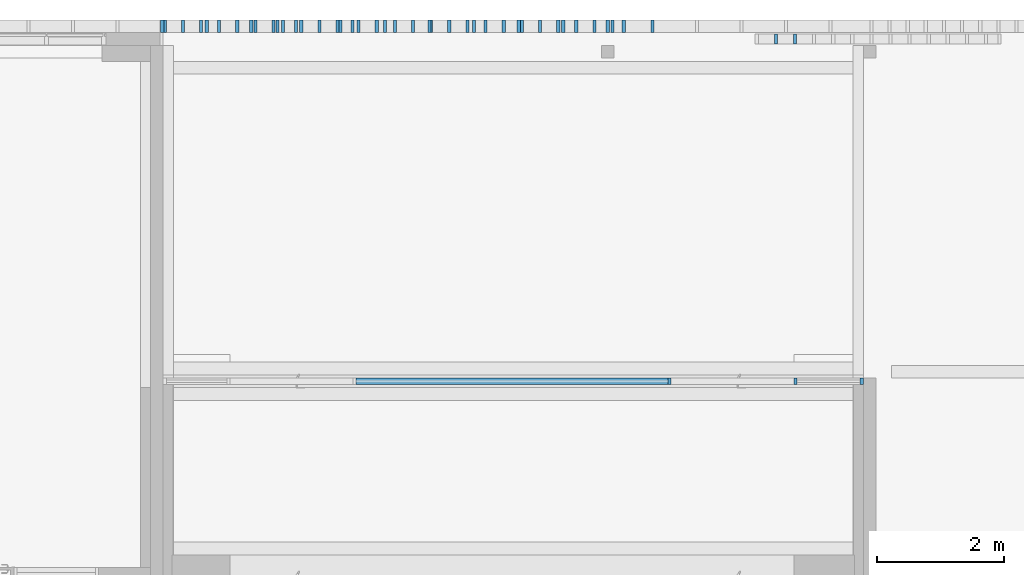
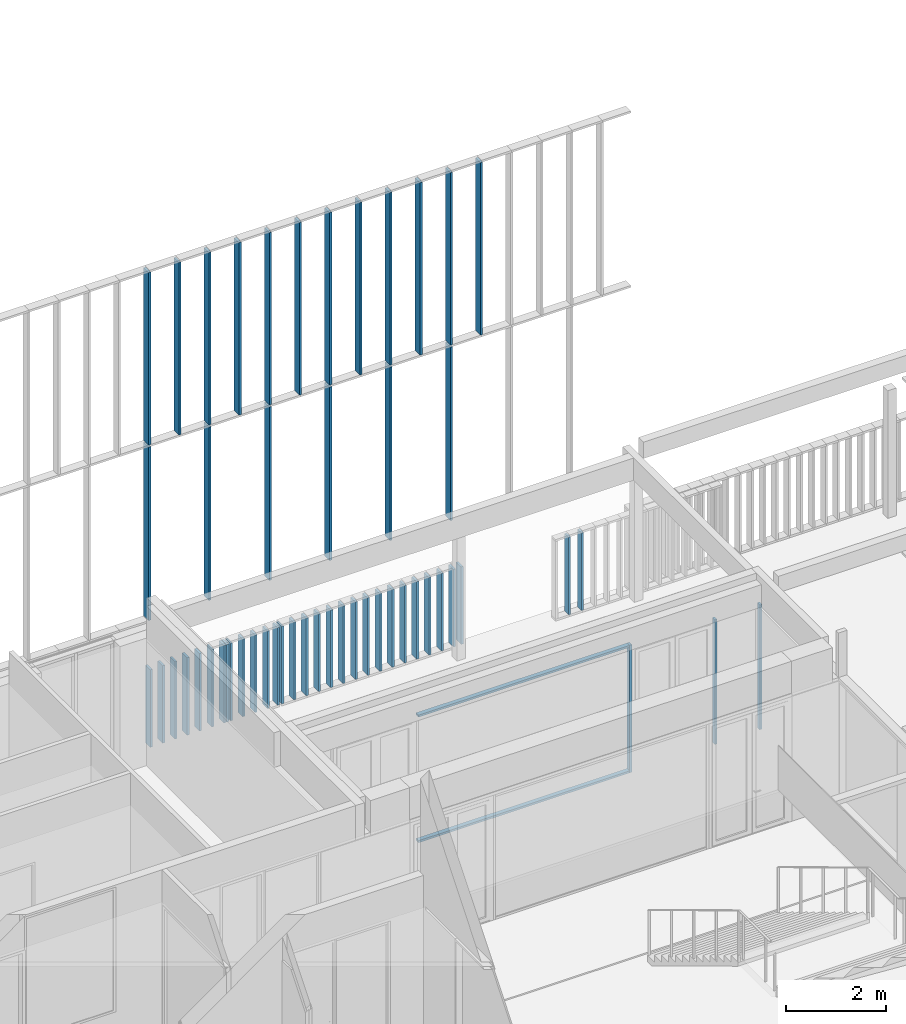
# One storey, part 23 of 240: 54 members, 7 elements without a shape of their own.
"""IFC2X3 building model written with IfcOpenShell, lengths in centimetres."""

from ifc_helpers import new_model, entity, si_unit, converted_unit, derived_unit, direction, frame, origin, origin_2d_with_axis, place, context, subcontext, project, spatial, rectangle, extrude, source, transform, mapped, material, type_object, type_shapes, element, aggregate, save


model = new_model("IFC2X3")

# Units and contexts
model_context = context("Model", 3, precision=0.001, world=origin(), true_north=direction((6.12303176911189e-17, 1.0)))
body_context = subcontext(model_context, "Body", "Model", "MODEL_VIEW")
ifc_project = project(units=[si_unit("LENGTHUNIT", "METRE", prefix="CENTI"), si_unit("AREAUNIT", "SQUARE_METRE"), si_unit("VOLUMEUNIT", "CUBIC_METRE"), converted_unit("PLANEANGLEUNIT", "DEGREE", entity("IfcRatioMeasure", 0.0174532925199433), si_unit("PLANEANGLEUNIT", "RADIAN"), dimensions=[0, 0, 0, 0, 0, 0, 0]), si_unit("MASSUNIT", "GRAM", prefix="KILO"), derived_unit("MASSDENSITYUNIT", [(si_unit("MASSUNIT", "GRAM", prefix="KILO"), 1), (si_unit("LENGTHUNIT", "METRE"), -3)]), si_unit("TIMEUNIT", "SECOND"), si_unit("FREQUENCYUNIT", "HERTZ"), si_unit("THERMODYNAMICTEMPERATUREUNIT", "DEGREE_CELSIUS"), derived_unit("THERMALTRANSMITTANCEUNIT", [(si_unit("MASSUNIT", "GRAM", prefix="KILO"), 1), (si_unit("THERMODYNAMICTEMPERATUREUNIT", "KELVIN"), -1), (si_unit("TIMEUNIT", "SECOND"), -3)]), derived_unit("VOLUMETRICFLOWRATEUNIT", [(si_unit("LENGTHUNIT", "METRE"), 3), (si_unit("TIMEUNIT", "SECOND"), -1)]), si_unit("ELECTRICCURRENTUNIT", "AMPERE"), si_unit("ELECTRICVOLTAGEUNIT", "VOLT"), si_unit("POWERUNIT", "WATT"), si_unit("FORCEUNIT", "NEWTON", prefix="KILO"), si_unit("ILLUMINANCEUNIT", "LUX"), si_unit("LUMINOUSFLUXUNIT", "LUMEN"), si_unit("LUMINOUSINTENSITYUNIT", "CANDELA"), derived_unit("USERDEFINED", [(si_unit("MASSUNIT", "GRAM", prefix="KILO"), -1), (si_unit("LENGTHUNIT", "METRE"), -2), (si_unit("TIMEUNIT", "SECOND"), 3), (si_unit("LUMINOUSFLUXUNIT", "LUMEN"), 1)]), derived_unit("LINEARVELOCITYUNIT", [(si_unit("LENGTHUNIT", "METRE"), 1), (si_unit("TIMEUNIT", "SECOND"), -1)]), si_unit("PRESSUREUNIT", "PASCAL"), derived_unit("USERDEFINED", [(si_unit("LENGTHUNIT", "METRE"), -2), (si_unit("MASSUNIT", "GRAM", prefix="KILO"), 1), (si_unit("TIMEUNIT", "SECOND"), -2)])], contexts=[model_context])

# Site, building, storey
site_placement = place(None, frame((-2781.94577612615, 7442.24238424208, 0.0)))
site = spatial("IfcSite", under=ifc_project, at=site_placement, Name="Default", CompositionType="ELEMENT")
building_placement = place(site_placement, origin())
building = spatial("IfcBuilding", under=site, at=building_placement, CompositionType="ELEMENT")
storey_placement = place(building_placement, origin())
storey = spatial("IfcBuildingStorey", under=building, at=storey_placement, Name="N00 - COO", CompositionType="ELEMENT", Elevation=0.0)

# Curtain wall, members
curtain_wall_type_1 = type_object("IfcCurtainWallType", Name="Mur-rideau:Epines - 200x50mm", PredefinedType="NOTDEFINED")
curtain_wall_1_placement = place(building_placement, origin())
curtain_wall_1 = element("IfcCurtainWall", 1, at=curtain_wall_1_placement, inside=storey, type_object=curtain_wall_type_1, Name="Mur-rideau:Epines - 200x50mm", ObjectType="Mur-rideau:Epines - 200x50mm")
ifc_material_1 = material(Name="Aluminium")
member_type_1 = type_object("IfcMemberType", Name="200x50 mm", PredefinedType="MEMBER")
shared_shape_1 = source(origin(), body_context, "Body", "SweptSolid", [
    extrude(rectangle(XDim=20.0, YDim=5.0, at=origin_2d_with_axis()), frame((0.0, 0.0, -423.0), z_axis=(0.0, 0.0, 1.0), x_axis=(0.0, -1.0, 0.0)), (0.0, 0.0, 1.0), 423.000000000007),
])
type_shapes(member_type_1, [shared_shape_1])
member_1_placement = place(building_placement, frame((-4769.49987760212, 40.0, 748.0), z_axis=(0.0, 0.0, -1.0), x_axis=(1.0, 0.0, 0.0)))
member_1 = element("IfcMember", 2, at=member_1_placement, type_object=member_type_1, material=ifc_material_1, Name="Meneau rectangulaire:200x50 mm", ObjectType="Meneau rectangulaire:200x50 mm", context=body_context, shape_type="MappedRepresentation", body=[
    mapped(shared_shape_1, transform((0.0, 0.0, 0.0), scale=1.0)),
])
member_2_placement = place(building_placement, frame((-4489.49987760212, 40.0, 748.0), z_axis=(0.0, 0.0, -1.0), x_axis=(1.0, 0.0, 0.0)))
member_2 = element("IfcMember", 3, at=member_2_placement, type_object=member_type_1, material=ifc_material_1, Name="Meneau rectangulaire:200x50 mm", ObjectType="Meneau rectangulaire:200x50 mm", context=body_context, shape_type="MappedRepresentation", body=[
    mapped(shared_shape_1, transform((0.0, 0.0, 0.0), scale=1.0)),
])
member_3_placement = place(building_placement, frame((-4209.49987760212, 40.0, 748.0), z_axis=(0.0, 0.0, -1.0), x_axis=(1.0, 0.0, 0.0)))
member_3 = element("IfcMember", 4, at=member_3_placement, type_object=member_type_1, material=ifc_material_1, Name="Meneau rectangulaire:200x50 mm", ObjectType="Meneau rectangulaire:200x50 mm", context=body_context, shape_type="MappedRepresentation", body=[
    mapped(shared_shape_1, transform((0.0, 0.0, 0.0), scale=1.0)),
])
member_4_placement = place(building_placement, frame((-4629.50004279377, 40.0, 748.0), z_axis=(0.0, 0.0, -1.0), x_axis=(1.0, 0.0, 0.0)))
member_4 = element("IfcMember", 5, at=member_4_placement, type_object=member_type_1, material=ifc_material_1, Name="Meneau rectangulaire:200x50 mm", ObjectType="Meneau rectangulaire:200x50 mm", context=body_context, shape_type="MappedRepresentation", body=[
    mapped(shared_shape_1, transform((0.0, 0.0, 0.0), scale=1.0)),
])
member_5_placement = place(building_placement, frame((-4349.49987760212, 40.0, 748.0), z_axis=(0.0, 0.0, -1.0), x_axis=(1.0, 0.0, 0.0)))
member_5 = element("IfcMember", 6, at=member_5_placement, type_object=member_type_1, material=ifc_material_1, Name="Meneau rectangulaire:200x50 mm", ObjectType="Meneau rectangulaire:200x50 mm", context=body_context, shape_type="MappedRepresentation", body=[
    mapped(shared_shape_1, transform((0.0, 0.0, 0.0), scale=1.0)),
])
member_6_placement = place(building_placement, frame((-4069.50004159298, 40.0, 748.0), z_axis=(0.0, 0.0, -1.0), x_axis=(1.0, 0.0, 0.0)))
member_6 = element("IfcMember", 7, at=member_6_placement, type_object=member_type_1, material=ifc_material_1, Name="Meneau rectangulaire:200x50 mm", ObjectType="Meneau rectangulaire:200x50 mm", context=body_context, shape_type="MappedRepresentation", body=[
    mapped(shared_shape_1, transform((0.0, 0.0, 0.0), scale=1.0)),
])
member_7_placement = place(building_placement, frame((-3999.49995959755, 40.0, 748.0), z_axis=(0.0, 0.0, -1.0), x_axis=(1.0, 0.0, 0.0)))
member_7 = element("IfcMember", 8, at=member_7_placement, type_object=member_type_1, material=ifc_material_1, Name="Meneau rectangulaire:200x50 mm", ObjectType="Meneau rectangulaire:200x50 mm", context=body_context, shape_type="MappedRepresentation", body=[
    mapped(shared_shape_1, transform((0.0, 0.0, 0.0), scale=1.0)),
])
member_8_placement = place(building_placement, frame((-4139.49995959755, 40.0, 748.0), z_axis=(0.0, 0.0, -1.0), x_axis=(1.0, 0.0, 0.0)))
member_8 = element("IfcMember", 9, at=member_8_placement, type_object=member_type_1, material=ifc_material_1, Name="Meneau rectangulaire:200x50 mm", ObjectType="Meneau rectangulaire:200x50 mm", context=body_context, shape_type="MappedRepresentation", body=[
    mapped(shared_shape_1, transform((0.0, 0.0, 0.0), scale=1.0)),
])
member_9_placement = place(building_placement, frame((-4279.49987760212, 40.0, 748.0), z_axis=(0.0, 0.0, -1.0), x_axis=(1.0, 0.0, 0.0)))
member_9 = element("IfcMember", 10, at=member_9_placement, type_object=member_type_1, material=ifc_material_1, Name="Meneau rectangulaire:200x50 mm", ObjectType="Meneau rectangulaire:200x50 mm", context=body_context, shape_type="MappedRepresentation", body=[
    mapped(shared_shape_1, transform((0.0, 0.0, 0.0), scale=1.0)),
])
member_10_placement = place(building_placement, frame((-4419.49987760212, 40.0, 748.0), z_axis=(0.0, 0.0, -1.0), x_axis=(1.0, 0.0, 0.0)))
member_10 = element("IfcMember", 11, at=member_10_placement, type_object=member_type_1, material=ifc_material_1, Name="Meneau rectangulaire:200x50 mm", ObjectType="Meneau rectangulaire:200x50 mm", context=body_context, shape_type="MappedRepresentation", body=[
    mapped(shared_shape_1, transform((0.0, 0.0, 0.0), scale=1.0)),
])
member_11_placement = place(building_placement, frame((-4559.49996019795, 40.0, 748.0), z_axis=(0.0, 0.0, -1.0), x_axis=(1.0, 0.0, 0.0)))
member_11 = element("IfcMember", 12, at=member_11_placement, type_object=member_type_1, material=ifc_material_1, Name="Meneau rectangulaire:200x50 mm", ObjectType="Meneau rectangulaire:200x50 mm", context=body_context, shape_type="MappedRepresentation", body=[
    mapped(shared_shape_1, transform((0.0, 0.0, 0.0), scale=1.0)),
])
member_12_placement = place(building_placement, frame((-4699.49996019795, 40.0, 748.0), z_axis=(0.0, 0.0, -1.0), x_axis=(1.0, 0.0, 0.0)))
member_12 = element("IfcMember", 13, at=member_12_placement, type_object=member_type_1, material=ifc_material_1, Name="Meneau rectangulaire:200x50 mm", ObjectType="Meneau rectangulaire:200x50 mm", context=body_context, shape_type="MappedRepresentation", body=[
    mapped(shared_shape_1, transform((0.0, 0.0, 0.0), scale=1.0)),
])
member_type_2 = type_object("IfcMemberType", Name="200x50 mm", PredefinedType="MEMBER")
shared_shape_2 = source(origin(), body_context, "Body", "SweptSolid", [
    extrude(rectangle(XDim=20.0, YDim=5.0, at=origin_2d_with_axis()), frame((0.0, 0.0, -425.5), z_axis=(0.0, 0.0, 1.0), x_axis=(0.0, -1.0, 0.0)), (0.0, 0.0, 1.0), 425.5),
])
type_shapes(member_type_2, [shared_shape_2])
member_13_placement = place(building_placement, frame((-4769.49987760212, 40.0, 317.5), z_axis=(0.0, 0.0, -1.0), x_axis=(1.0, 0.0, 0.0)))
member_13 = element("IfcMember", 14, at=member_13_placement, type_object=member_type_2, material=ifc_material_1, Name="Meneau rectangulaire:200x50 mm", ObjectType="Meneau rectangulaire:200x50 mm", context=body_context, shape_type="MappedRepresentation", body=[
    mapped(shared_shape_2, transform((0.0, 0.0, 0.0), scale=1.0)),
])
member_14_placement = place(building_placement, frame((-4069.50004159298, 40.0, 317.5), z_axis=(0.0, 0.0, -1.0), x_axis=(1.0, 0.0, 0.0)))
member_14 = element("IfcMember", 15, at=member_14_placement, type_object=member_type_2, material=ifc_material_1, Name="Meneau rectangulaire:200x50 mm", ObjectType="Meneau rectangulaire:200x50 mm", context=body_context, shape_type="MappedRepresentation", body=[
    mapped(shared_shape_2, transform((0.0, 0.0, 0.0), scale=1.0)),
])
member_15_placement = place(building_placement, frame((-4209.49987760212, 40.0, 317.5), z_axis=(0.0, 0.0, -1.0), x_axis=(1.0, 0.0, 0.0)))
member_15 = element("IfcMember", 16, at=member_15_placement, type_object=member_type_2, material=ifc_material_1, Name="Meneau rectangulaire:200x50 mm", ObjectType="Meneau rectangulaire:200x50 mm", context=body_context, shape_type="MappedRepresentation", body=[
    mapped(shared_shape_2, transform((0.0, 0.0, 0.0), scale=1.0)),
])
member_16_placement = place(building_placement, frame((-4349.49987760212, 40.0, 317.5), z_axis=(0.0, 0.0, -1.0), x_axis=(1.0, 0.0, 0.0)))
member_16 = element("IfcMember", 17, at=member_16_placement, type_object=member_type_2, material=ifc_material_1, Name="Meneau rectangulaire:200x50 mm", ObjectType="Meneau rectangulaire:200x50 mm", context=body_context, shape_type="MappedRepresentation", body=[
    mapped(shared_shape_2, transform((0.0, 0.0, 0.0), scale=1.0)),
])
member_17_placement = place(building_placement, frame((-4489.49987760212, 40.0, 317.5), z_axis=(0.0, 0.0, -1.0), x_axis=(1.0, 0.0, 0.0)))
member_17 = element("IfcMember", 18, at=member_17_placement, type_object=member_type_2, material=ifc_material_1, Name="Meneau rectangulaire:200x50 mm", ObjectType="Meneau rectangulaire:200x50 mm", context=body_context, shape_type="MappedRepresentation", body=[
    mapped(shared_shape_2, transform((0.0, 0.0, 0.0), scale=1.0)),
])
member_18_placement = place(building_placement, frame((-4629.50004279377, 40.0, 317.5), z_axis=(0.0, 0.0, -1.0), x_axis=(1.0, 0.0, 0.0)))
member_18 = element("IfcMember", 19, at=member_18_placement, type_object=member_type_2, material=ifc_material_1, Name="Meneau rectangulaire:200x50 mm", ObjectType="Meneau rectangulaire:200x50 mm", context=body_context, shape_type="MappedRepresentation", body=[
    mapped(shared_shape_2, transform((0.0, 0.0, 0.0), scale=1.0)),
])
aggregate(curtain_wall_1, [member_1, member_2, member_3, member_13, member_4, member_5, member_6, member_7, member_8, member_9, member_10, member_11, member_12, member_14, member_15, member_16, member_17, member_18])

curtain_wall_type_2 = type_object("IfcCurtainWallType", Name="Mur-SR", PredefinedType="NOTDEFINED")
curtain_wall_2_placement = place(building_placement, origin())
curtain_wall_2 = element("IfcCurtainWall", 20, at=curtain_wall_2_placement, inside=storey, type_object=curtain_wall_type_2, Name="Mur-rideau:SR-Clôture", ObjectType="Mur-rideau:SR-Clôture")
member_type_3 = type_object("IfcMemberType", Name="Epine nord (200x50 mm)", PredefinedType="MEMBER")
shared_shape_3 = source(origin(), body_context, "Body", "SweptSolid", [
    extrude(rectangle(XDim=20.0, YDim=5.0, at=origin_2d_with_axis()), frame((0.0, 0.0, -190.0), z_axis=(0.0, 0.0, 1.0), x_axis=(0.0, -1.0, 0.0)), (0.0, 0.0, 1.0), 190.0),
])
type_shapes(member_type_3, [shared_shape_3])
member_19_placement = place(building_placement, frame((-4432.49291430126, 40.0, 5.0), z_axis=(0.0, 0.0, -1.0), x_axis=(1.0, 0.0, 0.0)))
member_19 = element("IfcMember", 21, at=member_19_placement, type_object=member_type_3, material=ifc_material_1, Name="Meneau rectangulaire:Epine nord (200x50 mm)", ObjectType="Meneau rectangulaire:Epine nord (200x50 mm)", context=body_context, shape_type="MappedRepresentation", body=[
    mapped(shared_shape_3, transform((0.0, 0.0, 0.0), scale=1.0)),
])
member_20_placement = place(building_placement, frame((-4403.99291430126, 40.0, 5.0), z_axis=(0.0, 0.0, -1.0), x_axis=(1.0, 0.0, 0.0)))
member_20 = element("IfcMember", 22, at=member_20_placement, type_object=member_type_3, material=ifc_material_1, Name="Meneau rectangulaire:Epine nord (200x50 mm)", ObjectType="Meneau rectangulaire:Epine nord (200x50 mm)", context=body_context, shape_type="MappedRepresentation", body=[
    mapped(shared_shape_3, transform((0.0, 0.0, 0.0), scale=1.0)),
])
member_21_placement = place(building_placement, frame((-4375.49291430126, 40.0, 5.0), z_axis=(0.0, 0.0, -1.0), x_axis=(1.0, 0.0, 0.0)))
member_21 = element("IfcMember", 23, at=member_21_placement, type_object=member_type_3, material=ifc_material_1, Name="Meneau rectangulaire:Epine nord (200x50 mm)", ObjectType="Meneau rectangulaire:Epine nord (200x50 mm)", context=body_context, shape_type="MappedRepresentation", body=[
    mapped(shared_shape_3, transform((0.0, 0.0, 0.0), scale=1.0)),
])
member_22_placement = place(building_placement, frame((-4346.99291430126, 40.0, 5.0), z_axis=(0.0, 0.0, -1.0), x_axis=(1.0, 0.0, 0.0)))
member_22 = element("IfcMember", 24, at=member_22_placement, type_object=member_type_3, material=ifc_material_1, Name="Meneau rectangulaire:Epine nord (200x50 mm)", ObjectType="Meneau rectangulaire:Epine nord (200x50 mm)", context=body_context, shape_type="MappedRepresentation", body=[
    mapped(shared_shape_3, transform((0.0, 0.0, 0.0), scale=1.0)),
])
member_23_placement = place(building_placement, frame((-4318.49291430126, 40.0, 5.0), z_axis=(0.0, 0.0, -1.0), x_axis=(1.0, 0.0, 0.0)))
member_23 = element("IfcMember", 25, at=member_23_placement, type_object=member_type_3, material=ifc_material_1, Name="Meneau rectangulaire:Epine nord (200x50 mm)", ObjectType="Meneau rectangulaire:Epine nord (200x50 mm)", context=body_context, shape_type="MappedRepresentation", body=[
    mapped(shared_shape_3, transform((0.0, 0.0, 0.0), scale=1.0)),
])
member_24_placement = place(building_placement, frame((-4289.99291430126, 40.0, 5.0), z_axis=(0.0, 0.0, -1.0), x_axis=(1.0, 0.0, 0.0)))
member_24 = element("IfcMember", 26, at=member_24_placement, type_object=member_type_3, material=ifc_material_1, Name="Meneau rectangulaire:Epine nord (200x50 mm)", ObjectType="Meneau rectangulaire:Epine nord (200x50 mm)", context=body_context, shape_type="MappedRepresentation", body=[
    mapped(shared_shape_3, transform((0.0, 0.0, 0.0), scale=1.0)),
])
member_25_placement = place(building_placement, frame((-4261.49291430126, 40.0, 5.0), z_axis=(0.0, 0.0, -1.0), x_axis=(1.0, 0.0, 0.0)))
member_25 = element("IfcMember", 27, at=member_25_placement, type_object=member_type_3, material=ifc_material_1, Name="Meneau rectangulaire:Epine nord (200x50 mm)", ObjectType="Meneau rectangulaire:Epine nord (200x50 mm)", context=body_context, shape_type="MappedRepresentation", body=[
    mapped(shared_shape_3, transform((0.0, 0.0, 0.0), scale=1.0)),
])
member_26_placement = place(building_placement, frame((-4232.99291430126, 40.0, 5.0), z_axis=(0.0, 0.0, -1.0), x_axis=(1.0, 0.0, 0.0)))
member_26 = element("IfcMember", 28, at=member_26_placement, type_object=member_type_3, material=ifc_material_1, Name="Meneau rectangulaire:Epine nord (200x50 mm)", ObjectType="Meneau rectangulaire:Epine nord (200x50 mm)", context=body_context, shape_type="MappedRepresentation", body=[
    mapped(shared_shape_3, transform((0.0, 0.0, 0.0), scale=1.0)),
])
member_27_placement = place(building_placement, frame((-4204.49291430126, 40.0, 5.0), z_axis=(0.0, 0.0, -1.0), x_axis=(1.0, 0.0, 0.0)))
member_27 = element("IfcMember", 29, at=member_27_placement, type_object=member_type_3, material=ifc_material_1, Name="Meneau rectangulaire:Epine nord (200x50 mm)", ObjectType="Meneau rectangulaire:Epine nord (200x50 mm)", context=body_context, shape_type="MappedRepresentation", body=[
    mapped(shared_shape_3, transform((0.0, 0.0, 0.0), scale=1.0)),
])
member_28_placement = place(building_placement, frame((-4175.99291430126, 40.0, 5.0), z_axis=(0.0, 0.0, -1.0), x_axis=(1.0, 0.0, 0.0)))
member_28 = element("IfcMember", 30, at=member_28_placement, type_object=member_type_3, material=ifc_material_1, Name="Meneau rectangulaire:Epine nord (200x50 mm)", ObjectType="Meneau rectangulaire:Epine nord (200x50 mm)", context=body_context, shape_type="MappedRepresentation", body=[
    mapped(shared_shape_3, transform((0.0, 0.0, 0.0), scale=1.0)),
])
member_29_placement = place(building_placement, frame((-4147.49291430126, 40.0, 5.0), z_axis=(0.0, 0.0, -1.0), x_axis=(1.0, 0.0, 0.0)))
member_29 = element("IfcMember", 31, at=member_29_placement, type_object=member_type_3, material=ifc_material_1, Name="Meneau rectangulaire:Epine nord (200x50 mm)", ObjectType="Meneau rectangulaire:Epine nord (200x50 mm)", context=body_context, shape_type="MappedRepresentation", body=[
    mapped(shared_shape_3, transform((0.0, 0.0, 0.0), scale=1.0)),
])
member_30_placement = place(building_placement, frame((-4118.99291430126, 40.0, 5.0), z_axis=(0.0, 0.0, -1.0), x_axis=(1.0, 0.0, 0.0)))
member_30 = element("IfcMember", 32, at=member_30_placement, type_object=member_type_3, material=ifc_material_1, Name="Meneau rectangulaire:Epine nord (200x50 mm)", ObjectType="Meneau rectangulaire:Epine nord (200x50 mm)", context=body_context, shape_type="MappedRepresentation", body=[
    mapped(shared_shape_3, transform((0.0, 0.0, 0.0), scale=1.0)),
])
member_31_placement = place(building_placement, frame((-4090.49291430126, 40.0, 5.0), z_axis=(0.0, 0.0, -1.0), x_axis=(1.0, 0.0, 0.0)))
member_31 = element("IfcMember", 33, at=member_31_placement, type_object=member_type_3, material=ifc_material_1, Name="Meneau rectangulaire:Epine nord (200x50 mm)", ObjectType="Meneau rectangulaire:Epine nord (200x50 mm)", context=body_context, shape_type="MappedRepresentation", body=[
    mapped(shared_shape_3, transform((0.0, 0.0, 0.0), scale=1.0)),
])
member_32_placement = place(building_placement, frame((-4061.99291430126, 40.0, 5.0), z_axis=(0.0, 0.0, -1.0), x_axis=(1.0, 0.0, 0.0)))
member_32 = element("IfcMember", 34, at=member_32_placement, type_object=member_type_3, material=ifc_material_1, Name="Meneau rectangulaire:Epine nord (200x50 mm)", ObjectType="Meneau rectangulaire:Epine nord (200x50 mm)", context=body_context, shape_type="MappedRepresentation", body=[
    mapped(shared_shape_3, transform((0.0, 0.0, 0.0), scale=1.0)),
])

curtain_wall_3_placement = place(building_placement, origin())
curtain_wall_3 = element("IfcCurtainWall", 35, at=curtain_wall_3_placement, inside=storey, type_object=curtain_wall_type_2, Name="Mur-rideau:SR-Clôture", ObjectType="Mur-rideau:SR-Clôture")
member_33_placement = place(building_placement, frame((-4736.99987757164, 40.0, 5.0), z_axis=(0.0, 0.0, -1.0), x_axis=(1.0, 0.0, 0.0)))
member_33 = element("IfcMember", 36, at=member_33_placement, type_object=member_type_3, material=ifc_material_1, Name="Meneau rectangulaire:Epine nord (200x50 mm)", ObjectType="Meneau rectangulaire:Epine nord (200x50 mm)", context=body_context, shape_type="MappedRepresentation", body=[
    mapped(shared_shape_3, transform((0.0, 0.0, 0.0), scale=1.0)),
])
member_34_placement = place(building_placement, frame((-4708.49987757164, 40.0, 5.0), z_axis=(0.0, 0.0, -1.0), x_axis=(1.0, 0.0, 0.0)))
member_34 = element("IfcMember", 37, at=member_34_placement, type_object=member_type_3, material=ifc_material_1, Name="Meneau rectangulaire:Epine nord (200x50 mm)", ObjectType="Meneau rectangulaire:Epine nord (200x50 mm)", context=body_context, shape_type="MappedRepresentation", body=[
    mapped(shared_shape_3, transform((0.0, 0.0, 0.0), scale=1.0)),
])
member_35_placement = place(building_placement, frame((-4679.99987757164, 40.0, 5.0), z_axis=(0.0, 0.0, -1.0), x_axis=(1.0, 0.0, 0.0)))
member_35 = element("IfcMember", 38, at=member_35_placement, type_object=member_type_3, material=ifc_material_1, Name="Meneau rectangulaire:Epine nord (200x50 mm)", ObjectType="Meneau rectangulaire:Epine nord (200x50 mm)", context=body_context, shape_type="MappedRepresentation", body=[
    mapped(shared_shape_3, transform((0.0, 0.0, 0.0), scale=1.0)),
])
member_36_placement = place(building_placement, frame((-4651.49987757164, 40.0, 5.0), z_axis=(0.0, 0.0, -1.0), x_axis=(1.0, 0.0, 0.0)))
member_36 = element("IfcMember", 39, at=member_36_placement, type_object=member_type_3, material=ifc_material_1, Name="Meneau rectangulaire:Epine nord (200x50 mm)", ObjectType="Meneau rectangulaire:Epine nord (200x50 mm)", context=body_context, shape_type="MappedRepresentation", body=[
    mapped(shared_shape_3, transform((0.0, 0.0, 0.0), scale=1.0)),
])
member_37_placement = place(building_placement, frame((-4622.99987757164, 40.0, 5.0), z_axis=(0.0, 0.0, -1.0), x_axis=(1.0, 0.0, 0.0)))
member_37 = element("IfcMember", 40, at=member_37_placement, type_object=member_type_3, material=ifc_material_1, Name="Meneau rectangulaire:Epine nord (200x50 mm)", ObjectType="Meneau rectangulaire:Epine nord (200x50 mm)", context=body_context, shape_type="MappedRepresentation", body=[
    mapped(shared_shape_3, transform((0.0, 0.0, 0.0), scale=1.0)),
])
member_38_placement = place(building_placement, frame((-4594.49987757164, 40.0, 5.0), z_axis=(0.0, 0.0, -1.0), x_axis=(1.0, 0.0, 0.0)))
member_38 = element("IfcMember", 41, at=member_38_placement, type_object=member_type_3, material=ifc_material_1, Name="Meneau rectangulaire:Epine nord (200x50 mm)", ObjectType="Meneau rectangulaire:Epine nord (200x50 mm)", context=body_context, shape_type="MappedRepresentation", body=[
    mapped(shared_shape_3, transform((0.0, 0.0, 0.0), scale=1.0)),
])

curtain_wall_4_placement = place(storey_placement, origin())
curtain_wall_4 = element("IfcCurtainWall", 42, at=curtain_wall_4_placement, inside=storey, type_object=curtain_wall_type_2, Name="Mur-SR", ObjectType="Mur-SR")
member_39_placement = place(storey_placement, frame((-4550.99291430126, 40.0, 5.0), z_axis=(0.0, 0.0, -1.0), x_axis=(1.0, 0.0, 0.0)))
member_39 = element("IfcMember", 43, at=member_39_placement, type_object=member_type_3, material=ifc_material_1, Name="Meneau rectangulaire:Epine nord (200x50 mm)", ObjectType="Meneau rectangulaire:Epine nord (200x50 mm)", context=body_context, shape_type="MappedRepresentation", body=[
    mapped(shared_shape_3, transform((0.0, 0.0, 0.0), scale=1.0)),
])
member_40_placement = place(storey_placement, frame((-4522.49291430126, 40.0, 5.0), z_axis=(0.0, 0.0, -1.0), x_axis=(1.0, 0.0, 0.0)))
member_40 = element("IfcMember", 44, at=member_40_placement, type_object=member_type_3, material=ifc_material_1, Name="Meneau rectangulaire:Epine nord (200x50 mm)", ObjectType="Meneau rectangulaire:Epine nord (200x50 mm)", context=body_context, shape_type="MappedRepresentation", body=[
    mapped(shared_shape_3, transform((0.0, 0.0, 0.0), scale=1.0)),
])
member_41_placement = place(storey_placement, frame((-4493.99291430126, 40.0, 5.0), z_axis=(0.0, 0.0, -1.0), x_axis=(1.0, 0.0, 0.0)))
member_41 = element("IfcMember", 45, at=member_41_placement, type_object=member_type_3, material=ifc_material_1, Name="Meneau rectangulaire:Epine nord (200x50 mm)", ObjectType="Meneau rectangulaire:Epine nord (200x50 mm)", context=body_context, shape_type="MappedRepresentation", body=[
    mapped(shared_shape_3, transform((0.0, 0.0, 0.0), scale=1.0)),
])

# Member
member_type_4 = type_object("IfcMemberType", Name="Epine nord (200x50 mm)", PredefinedType="MEMBER")
shared_shape_4 = source(origin(), body_context, "Body", "SweptSolid", [
    extrude(rectangle(XDim=20.0, YDim=5.0, at=origin_2d_with_axis()), frame((-2.5, 0.0, -190.0), z_axis=(0.0, 0.0, 1.0), x_axis=(0.0, -1.0, 0.0)), (0.0, 0.0, 1.0), 190.0),
])
type_shapes(member_type_4, [shared_shape_4])
member_42_placement = place(building_placement, frame((-4463.49291433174, 40.0, 195.0), z_axis=(0.0, 0.0, 1.0), x_axis=(-1.0, 0.0, 0.0)))
member_42 = element("IfcMember", 46, at=member_42_placement, type_object=member_type_4, material=ifc_material_1, Name="Meneau rectangulaire:Epine nord (200x50 mm)", ObjectType="Meneau rectangulaire:Epine nord (200x50 mm)", context=body_context, shape_type="MappedRepresentation", body=[
    mapped(shared_shape_4, transform((0.0, 0.0, 0.0), scale=1.0)),
])

member_43_placement = place(building_placement, frame((-4767.99987760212, 40.0, 195.0), z_axis=(0.0, 0.0, 1.0), x_axis=(-1.0, 0.0, 0.0)))
member_43 = element("IfcMember", 47, at=member_43_placement, type_object=member_type_4, material=ifc_material_1, Name="Meneau rectangulaire:Epine nord (200x50 mm)", ObjectType="Meneau rectangulaire:Epine nord (200x50 mm)", context=body_context, shape_type="MappedRepresentation", body=[
    mapped(shared_shape_4, transform((0.0, 0.0, 0.0), scale=1.0)),
])

member_44_placement = place(storey_placement, frame((-4581.99291433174, 40.0, 195.0), z_axis=(0.0, 0.0, 1.0), x_axis=(-1.0, 0.0, 0.0)))
member_44 = element("IfcMember", 48, at=member_44_placement, type_object=member_type_4, material=ifc_material_1, Name="Meneau rectangulaire:Epine nord (200x50 mm)", ObjectType="Meneau rectangulaire:Epine nord (200x50 mm)", context=body_context, shape_type="MappedRepresentation", body=[
    mapped(shared_shape_4, transform((0.0, 0.0, 0.0), scale=1.0)),
])

member_type_5 = type_object("IfcMemberType", Name="Epine nord (200x50 mm)", PredefinedType="MEMBER")
shared_shape_5 = source(origin(), body_context, "Body", "SweptSolid", [
    extrude(rectangle(XDim=20.0, YDim=5.0, at=origin_2d_with_axis()), frame((-2.5, 0.0, -190.0), z_axis=(0.0, 0.0, 1.0), x_axis=(0.0, -1.0, 0.0)), (0.0, 0.0, 1.0), 190.0),
])
type_shapes(member_type_5, [shared_shape_5])
member_45_placement = place(building_placement, frame((-4041.99291433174, 40.0, 5.0), z_axis=(0.0, 0.0, -1.0), x_axis=(1.0, 0.0, 0.0)))
member_45 = element("IfcMember", 49, at=member_45_placement, type_object=member_type_5, material=ifc_material_1, Name="Meneau rectangulaire:Epine nord (200x50 mm)", ObjectType="Meneau rectangulaire:Epine nord (200x50 mm)", context=body_context, shape_type="MappedRepresentation", body=[
    mapped(shared_shape_5, transform((0.0, 0.0, 0.0), scale=1.0)),
])

aggregate(curtain_wall_2, [member_19, member_20, member_21, member_22, member_23, member_24, member_25, member_26, member_27, member_28, member_29, member_30, member_31, member_45, member_42, member_32])

member_46_placement = place(building_placement, frame((-4585.99987760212, 40.0, 5.0), z_axis=(0.0, 0.0, -1.0), x_axis=(1.0, 0.0, 0.0)))
member_46 = element("IfcMember", 50, at=member_46_placement, type_object=member_type_5, material=ifc_material_1, Name="Meneau rectangulaire:Epine nord (200x50 mm)", ObjectType="Meneau rectangulaire:Epine nord (200x50 mm)", context=body_context, shape_type="MappedRepresentation", body=[
    mapped(shared_shape_5, transform((0.0, 0.0, 0.0), scale=1.0)),
])

aggregate(curtain_wall_3, [member_33, member_34, member_35, member_46, member_43, member_36, member_37, member_38])

member_47_placement = place(storey_placement, frame((-4467.99291433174, 40.0, 5.0), z_axis=(0.0, 0.0, -1.0), x_axis=(1.0, 0.0, 0.0)))
member_47 = element("IfcMember", 51, at=member_47_placement, type_object=member_type_5, material=ifc_material_1, Name="Meneau rectangulaire:Epine nord (200x50 mm)", ObjectType="Meneau rectangulaire:Epine nord (200x50 mm)", context=body_context, shape_type="MappedRepresentation", body=[
    mapped(shared_shape_5, transform((0.0, 0.0, 0.0), scale=1.0)),
])

aggregate(curtain_wall_4, [member_39, member_40, member_41, member_47, member_44])

# Curtain wall, members
curtain_wall_type_3 = type_object("IfcCurtainWallType", Name="Mur-rideau:07 - mur rideau vitrage sans recoupement 10cm", PredefinedType="NOTDEFINED")
curtain_wall_5_placement = place(building_placement, origin())
curtain_wall_5 = element("IfcCurtainWall", 52, at=curtain_wall_5_placement, inside=storey, type_object=curtain_wall_type_3, Name="Mur-rideau:07 - mur rideau vitrage sans recoupement 10cm", ObjectType="Mur-rideau:07 - mur rideau vitrage sans recoupement 10cm")
ifc_material_2 = material(Name="Plastique, blanc opaque")
member_type_6 = type_object("IfcMemberType", Name="100 x 50mm", PredefinedType="MEMBER")
shared_shape_6 = source(origin(), body_context, "Body", "SweptSolid", [
    extrude(rectangle(XDim=10.0, YDim=5.0, at=origin_2d_with_axis()), frame((-2.5, 0.0, -306.0), z_axis=(0.0, 0.0, 1.0), x_axis=(0.0, -1.0, 0.0)), (0.0, 0.0, 1.0), 306.0),
])
type_shapes(member_type_6, [shared_shape_6])
member_48_placement = place(building_placement, frame((-3667.99987968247, -517.548500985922, 0.0), z_axis=(0.0, 0.0, -1.0), x_axis=(1.0, 0.0, 0.0)))
member_48 = element("IfcMember", 53, at=member_48_placement, type_object=member_type_6, material=ifc_material_2, Name="Meneau rectangulaire:100 x 50mm", ObjectType="Meneau rectangulaire:100 x 50mm", context=body_context, shape_type="MappedRepresentation", body=[
    mapped(shared_shape_6, transform((0.0, 0.0, 0.0), scale=1.0)),
])
member_type_7 = type_object("IfcMemberType", Name="100 x 50mm", PredefinedType="MEMBER")
shared_shape_7 = source(origin(), body_context, "Body", "SweptSolid", [
    extrude(rectangle(XDim=10.0, YDim=5.0, at=origin_2d_with_axis()), frame((-2.5, 0.0, -306.0), z_axis=(0.0, 0.0, 1.0), x_axis=(0.0, -1.0, 0.0)), (0.0, 0.0, 1.0), 306.0),
])
type_shapes(member_type_7, [shared_shape_7])
member_49_placement = place(building_placement, frame((-3777.24283441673, -517.548500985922, 306.0), z_axis=(0.0, 0.0, 1.0), x_axis=(-1.0, 0.0, 0.0)))
member_49 = element("IfcMember", 54, at=member_49_placement, type_object=member_type_7, material=ifc_material_2, Name="Meneau rectangulaire:100 x 50mm", ObjectType="Meneau rectangulaire:100 x 50mm", context=body_context, shape_type="MappedRepresentation", body=[
    mapped(shared_shape_7, transform((0.0, 0.0, 0.0), scale=1.0)),
])
aggregate(curtain_wall_5, [member_48, member_49])

curtain_wall_6_placement = place(building_placement, origin())
curtain_wall_6 = element("IfcCurtainWall", 55, at=curtain_wall_6_placement, inside=storey, type_object=curtain_wall_type_3, Name="Mur-rideau:07 - mur rideau vitrage sans recoupement 10cm", ObjectType="Mur-rideau:07 - mur rideau vitrage sans recoupement 10cm")
member_type_8 = type_object("IfcMemberType", Name="100 x 50mm", PredefinedType="MEMBER")
shared_shape_8 = source(origin(), body_context, "Body", "SweptSolid", [
    extrude(rectangle(XDim=10.0, YDim=5.0, at=origin_2d_with_axis()), frame((-2.5, 0.0, -490.0), z_axis=(0.0, 0.0, 1.0), x_axis=(0.0, -1.0, 0.0)), (0.0, 0.0, 1.0), 490.0),
])
type_shapes(member_type_8, [shared_shape_8])
member_50_placement = place(building_placement, frame((-3974.99987968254, -517.548500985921, 313.0), z_axis=(1.0, 0.0, 0.0), x_axis=(0.0, 0.0, 1.0)))
member_50 = element("IfcMember", 56, at=member_50_placement, type_object=member_type_8, material=ifc_material_2, Name="Meneau rectangulaire:100 x 50mm", ObjectType="Meneau rectangulaire:100 x 50mm", context=body_context, shape_type="MappedRepresentation", body=[
    mapped(shared_shape_8, transform((0.0, 0.0, 0.0), scale=1.0)),
])
member_type_9 = type_object("IfcMemberType", Name="100 x 50mm", PredefinedType="MEMBER")
shared_shape_9 = source(origin(), body_context, "Body", "SweptSolid", [
    extrude(rectangle(XDim=10.0, YDim=5.0, at=origin_2d_with_axis()), frame((-2.5, 0.0, -490.0), z_axis=(0.0, 0.0, 1.0), x_axis=(0.0, -1.0, 0.0)), (0.0, 0.0, 1.0), 490.0),
])
type_shapes(member_type_9, [shared_shape_9])
member_51_placement = place(building_placement, frame((-4464.99987968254, -517.54850098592, 0.0), z_axis=(-1.0, 0.0, 0.0), x_axis=(0.0, 0.0, -1.0)))
member_51 = element("IfcMember", 57, at=member_51_placement, type_object=member_type_9, material=ifc_material_2, Name="Meneau rectangulaire:100 x 50mm", ObjectType="Meneau rectangulaire:100 x 50mm", context=body_context, shape_type="MappedRepresentation", body=[
    mapped(shared_shape_9, transform((0.0, 0.0, 0.0), scale=1.0)),
])
member_type_10 = type_object("IfcMemberType", Name="100 x 50mm", PredefinedType="MEMBER")
shared_shape_10 = source(origin(), body_context, "Body", "SweptSolid", [
    extrude(rectangle(XDim=10.0, YDim=5.0, at=origin_2d_with_axis()), frame((-2.5, 0.0, -313.0), z_axis=(0.0, 0.0, 1.0), x_axis=(0.0, -1.0, 0.0)), (0.0, 0.0, 1.0), 313.0),
])
type_shapes(member_type_10, [shared_shape_10])
member_52_placement = place(building_placement, frame((-3969.99987968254, -517.548500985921, 0.0), z_axis=(0.0, 0.0, -1.0), x_axis=(1.0, 0.0, 0.0)))
member_52 = element("IfcMember", 58, at=member_52_placement, type_object=member_type_10, material=ifc_material_2, Name="Meneau rectangulaire:100 x 50mm", ObjectType="Meneau rectangulaire:100 x 50mm", context=body_context, shape_type="MappedRepresentation", body=[
    mapped(shared_shape_10, transform((0.0, 0.0, 0.0), scale=1.0)),
])
aggregate(curtain_wall_6, [member_50, member_51, member_52])

curtain_wall_type_4 = type_object("IfcCurtainWallType", Name="Mur-SR", PredefinedType="NOTDEFINED")
curtain_wall_7_placement = place(storey_placement, origin())
curtain_wall_7 = element("IfcCurtainWall", 59, at=curtain_wall_7_placement, inside=storey, type_object=curtain_wall_type_4, Name="Mur-SR", ObjectType="Mur-SR")
member_type_11 = type_object("IfcMemberType", Name="Epine nord (160x50 mm)", PredefinedType="MEMBER")
shared_shape_11 = source(origin(), body_context, "Body", "SweptSolid", [
    extrude(rectangle(XDim=16.0, YDim=5.0, at=origin_2d_with_axis()), frame((0.0, 0.0, -190.0), z_axis=(0.0, 0.0, 1.0), x_axis=(0.0, -1.0, 0.0)), (0.0, 0.0, 1.0), 190.0),
])
type_shapes(member_type_11, [shared_shape_11])
member_53_placement = place(storey_placement, frame((-3805.49987968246, 20.0, 5.0), z_axis=(0.0, 0.0, -1.0), x_axis=(1.0, 0.0, 0.0)))
member_53 = element("IfcMember", 60, at=member_53_placement, type_object=member_type_11, material=ifc_material_1, Name="Meneau rectangulaire:Epine nord (160x50 mm)", ObjectType="Meneau rectangulaire:Epine nord (160x50 mm)", context=body_context, shape_type="MappedRepresentation", body=[
    mapped(shared_shape_11, transform((0.0, 0.0, 0.0), scale=1.0)),
])
member_54_placement = place(storey_placement, frame((-3775.49987968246, 20.0, 5.0), z_axis=(0.0, 0.0, -1.0), x_axis=(1.0, 0.0, 0.0)))
member_54 = element("IfcMember", 61, at=member_54_placement, type_object=member_type_11, material=ifc_material_1, Name="Meneau rectangulaire:Epine nord (160x50 mm)", ObjectType="Meneau rectangulaire:Epine nord (160x50 mm)", context=body_context, shape_type="MappedRepresentation", body=[
    mapped(shared_shape_11, transform((0.0, 0.0, 0.0), scale=1.0)),
])
aggregate(curtain_wall_7, [member_53, member_54])

save(model, "model.ifc")
